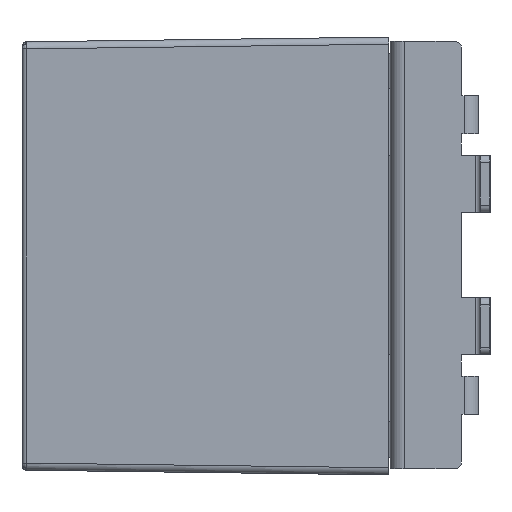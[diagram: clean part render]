
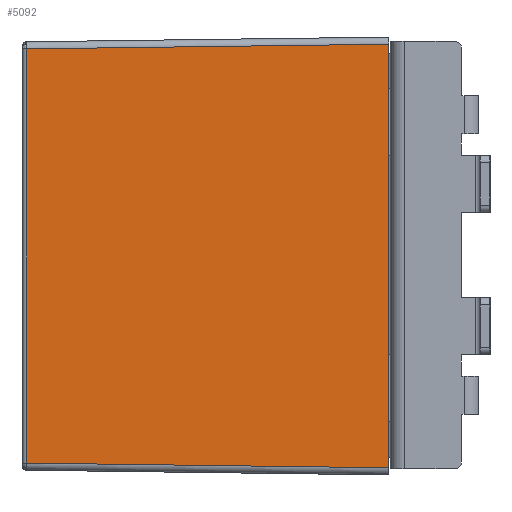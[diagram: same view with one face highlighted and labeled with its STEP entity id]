
A CAD part, left-side view. The second image highlights one B-rep face of the part: STEP entity #5092.
In plain terms, the highlighted planar face has unit normal (-1, 0.013, 0).
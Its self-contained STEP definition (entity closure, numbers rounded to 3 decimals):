
#51 = CARTESIAN_POINT ( 'NONE',  ( -58.063, 76.213, -43.563 ) ) ;
#212 = EDGE_LOOP ( 'NONE', ( #7420, #80104, #35187, #1425 ) ) ;
#1425 = ORIENTED_EDGE ( 'NONE', *, *, #49523, .F. ) ;
#4013 = CARTESIAN_POINT ( 'NONE',  ( -58.063, 76.213, -43.563 ) ) ;
#5092 = ADVANCED_FACE ( 'NONE', ( #102232 ), #71672, .T. ) ;
#5883 = LINE ( 'NONE', #73996, #29566 ) ;
#7420 = ORIENTED_EDGE ( 'NONE', *, *, #79426, .T. ) ;
#10034 = CARTESIAN_POINT ( 'NONE',  ( -59.05, 0., 44.55 ) ) ;
#11829 = DIRECTION ( 'NONE',  ( -0.013, -1., 0.013 ) ) ;
#15129 = VERTEX_POINT ( 'NONE', #51 ) ;
#18034 = LINE ( 'NONE', #4013, #86085 ) ;
#18834 = DIRECTION ( 'NONE',  ( -1., 0.013, 0. ) ) ;
#23872 = CARTESIAN_POINT ( 'NONE',  ( -59.05, 0., -44.55 ) ) ;
#27114 = VERTEX_POINT ( 'NONE', #50121 ) ;
#27377 = AXIS2_PLACEMENT_3D ( 'NONE', #72064, #18834, #80975 ) ;
#29566 = VECTOR ( 'NONE', #11829, 1000. ) ;
#30622 = VERTEX_POINT ( 'NONE', #10034 ) ;
#31183 = DIRECTION ( 'NONE',  ( 0., 0., 1. ) ) ;
#33997 = VECTOR ( 'NONE', #31183, 1000. ) ;
#35187 = ORIENTED_EDGE ( 'NONE', *, *, #110130, .T. ) ;
#39390 = DIRECTION ( 'NONE',  ( -0.013, -1., -0.013 ) ) ;
#49523 = EDGE_CURVE ( 'NONE', #27114, #30622, #5883, .T. ) ;
#50121 = CARTESIAN_POINT ( 'NONE',  ( -58.063, 76.213, 43.563 ) ) ;
#59242 = EDGE_CURVE ( 'NONE', #15129, #64181, #18034, .T. ) ;
#60374 = LINE ( 'NONE', #75341, #33997 ) ;
#64181 = VERTEX_POINT ( 'NONE', #23872 ) ;
#66065 = VECTOR ( 'NONE', #87808, 1000. ) ;
#71672 = PLANE ( 'NONE',  #27377 ) ;
#72064 = CARTESIAN_POINT ( 'NONE',  ( -59.04, 0.765, 0. ) ) ;
#73996 = CARTESIAN_POINT ( 'NONE',  ( -59.033, 1.342, 44.533 ) ) ;
#75341 = CARTESIAN_POINT ( 'NONE',  ( -59.05, 0., 0. ) ) ;
#78953 = CARTESIAN_POINT ( 'NONE',  ( -58.063, 76.213, 0. ) ) ;
#79426 = EDGE_CURVE ( 'NONE', #27114, #15129, #113184, .T. ) ;
#80104 = ORIENTED_EDGE ( 'NONE', *, *, #59242, .T. ) ;
#80975 = DIRECTION ( 'NONE',  ( -0.013, -1., 0. ) ) ;
#86085 = VECTOR ( 'NONE', #39390, 1000. ) ;
#87808 = DIRECTION ( 'NONE',  ( 0., 0., -1. ) ) ;
#102232 = FACE_OUTER_BOUND ( 'NONE', #212, .T. ) ;
#110130 = EDGE_CURVE ( 'NONE', #64181, #30622, #60374, .T. ) ;
#113184 = LINE ( 'NONE', #78953, #66065 ) ;
